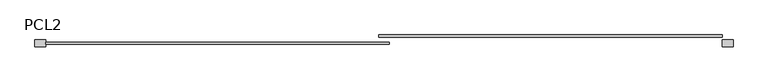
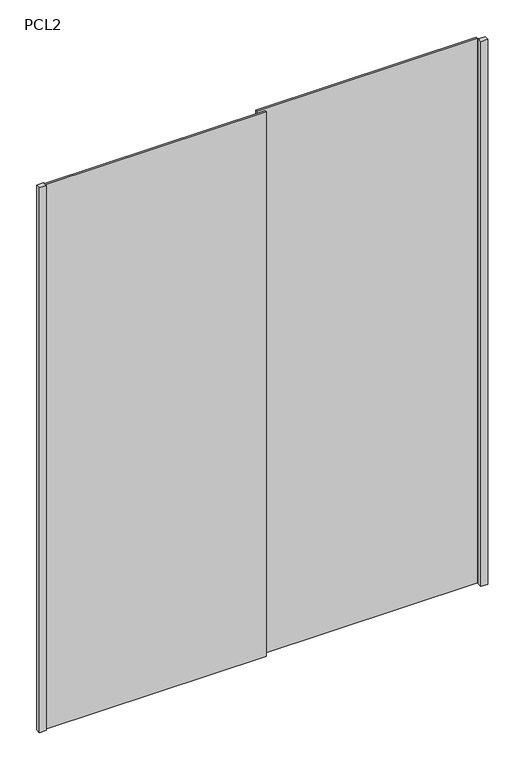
"""IFC4 building model written with IfcOpenShell, lengths in millimetres: furniture geometry, Puerta Closet corre 2 hojas : PCL2."""

from ifc_helpers import new_model, si_unit, origin, origin_with_axes, place, context, project, spatial, polyline, outline, extrude, source, transform, mapped, element, save


def pcl2_fbc0eced(model_context):
    return source(origin(), model_context, "Body", "SweptSolid", [
        extrude(outline(polyline([(440.0, 80.0), (410.0, 80.0), (410.0, 100.0), (440.0, 100.0), (440.0, 80.0)])), origin_with_axes(), (0.0, 0.0, 1.0), 2520.0),
        extrude(outline(polyline([(410.0, 106.6666667), (-555.0, 106.6666667), (-555.0, 113.3333333), (410.0, 113.3333333), (410.0, 106.6666667)])), origin_with_axes(), (0.0, 0.0, 1.0), 2520.0),
        extrude(outline(polyline([(-525.0, 86.6666667), (-1490.0, 86.6666667), (-1490.0, 93.3333333), (-525.0, 93.3333333), (-525.0, 86.6666667)])), origin_with_axes(), (0.0, 0.0, 1.0), 2520.0),
        extrude(outline(polyline([(-1520.0, 80.0), (-1520.0, 100.0), (-1490.0, 100.0), (-1490.0, 80.0), (-1520.0, 80.0)])), origin_with_axes(), (0.0, 0.0, 1.0), 2520.0),
    ])


if __name__ == "__main__":
    model = new_model("IFC4")
    model_context = context("Model", 3, world=origin())
    ifc_project = project(units=[si_unit("LENGTHUNIT", "METRE", prefix="MILLI")], contexts=[model_context])
    site = spatial("IfcSite", under=ifc_project)
    building = spatial("IfcBuilding", under=site)
    placement = place(None, origin())
    pcl2_shape = pcl2_fbc0eced(model_context)
    element("IfcFurniture", 1, ObjectType="Puerta Closet corre 2 hojas : PCL2", at=placement, inside=building, context=model_context, shape_type="MappedRepresentation", body=[
        mapped(pcl2_shape, transform((0.0, 0.0, 0.0), x_axis=(1.0, 0.0, 0.0), y_axis=(0.0, 1.0, 0.0), z_axis=(0.0, 0.0, 1.0))),
    ])
    save(model, "model.ifc")
